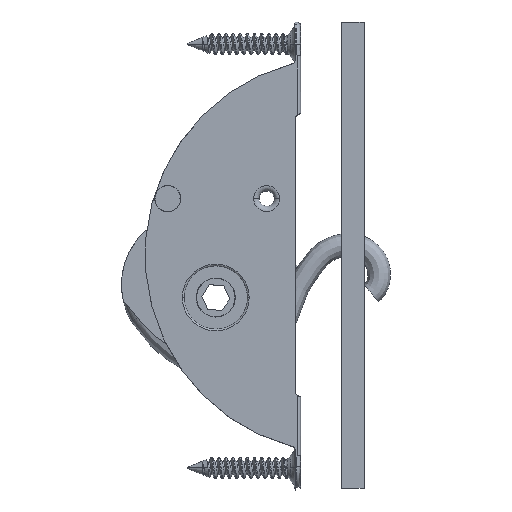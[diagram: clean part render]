
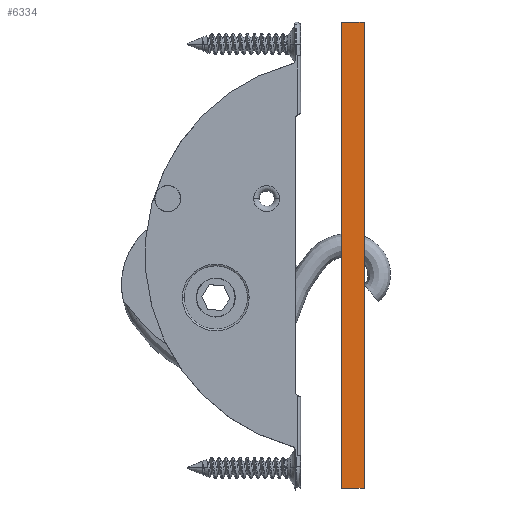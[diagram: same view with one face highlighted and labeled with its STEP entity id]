
A CAD part, top view. The second image highlights one B-rep face of the part: STEP entity #6334.
In plain terms, the highlighted planar face has unit normal (0, 0, 1).
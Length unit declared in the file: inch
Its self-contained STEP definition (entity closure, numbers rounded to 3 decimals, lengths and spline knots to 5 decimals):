
#126 = DIRECTION ( 'NONE',  ( 0., 0., -1. ) ) ;
#127 = CARTESIAN_POINT ( 'NONE',  ( 0.1, 2.0625, 0.195 ) ) ;
#154 = LINE ( 'NONE', #214, #213 ) ;
#155 = CARTESIAN_POINT ( 'NONE',  ( 0.1, 2.0625, 0.195 ) ) ;
#156 = CARTESIAN_POINT ( 'NONE',  ( 0.1, 2.0625, 0.195 ) ) ;
#157 = CARTESIAN_POINT ( 'NONE',  ( -0.1, -2.0625, 0.195 ) ) ;
#161 = AXIS2_PLACEMENT_3D ( 'NONE', #127, #126, #217 ) ;
#162 = FACE_OUTER_BOUND ( 'NONE', #6305, .T. ) ;
#171 = PLANE ( 'NONE',  #161 ) ;
#200 = DIRECTION ( 'NONE',  ( -1., 0., 0. ) ) ;
#201 = VECTOR ( 'NONE', #200, 39.37008 ) ;
#202 = LINE ( 'NONE', #208, #201 ) ;
#204 = DIRECTION ( 'NONE',  ( 0., -1., 0. ) ) ;
#205 = VECTOR ( 'NONE', #204, 39.37008 ) ;
#206 = LINE ( 'NONE', #155, #205 ) ;
#208 = CARTESIAN_POINT ( 'NONE',  ( 0.1, 2.0625, 0.195 ) ) ;
#212 = DIRECTION ( 'NONE',  ( -1., 0., 0. ) ) ;
#213 = VECTOR ( 'NONE', #212, 39.37008 ) ;
#214 = CARTESIAN_POINT ( 'NONE',  ( 0.1, -2.0625, 0.195 ) ) ;
#215 = CARTESIAN_POINT ( 'NONE',  ( 0.1, -2.0625, 0.195 ) ) ;
#216 = CARTESIAN_POINT ( 'NONE',  ( -0.1, 2.0625, 0.195 ) ) ;
#217 = DIRECTION ( 'NONE',  ( 0., 1., 0. ) ) ;
#290 = DIRECTION ( 'NONE',  ( 0., -1., 0. ) ) ;
#291 = VECTOR ( 'NONE', #290, 39.37008 ) ;
#293 = CARTESIAN_POINT ( 'NONE',  ( -0.1, 2.0625, 0.195 ) ) ;
#294 = LINE ( 'NONE', #293, #291 ) ;
#6304 = ORIENTED_EDGE ( 'NONE', *, *, #6398, .T. ) ;
#6305 = EDGE_LOOP ( 'NONE', ( #6304, #6336, #6350, #6384 ) ) ;
#6334 = ADVANCED_FACE ( 'NONE', ( #162 ), #171, .F. ) ;
#6335 = VERTEX_POINT ( 'NONE', #157 ) ;
#6336 = ORIENTED_EDGE ( 'NONE', *, *, #6337, .F. ) ;
#6337 = EDGE_CURVE ( 'NONE', #6338, #6335, #154, .T. ) ;
#6338 = VERTEX_POINT ( 'NONE', #215 ) ;
#6340 = VERTEX_POINT ( 'NONE', #156 ) ;
#6341 = EDGE_CURVE ( 'NONE', #6340, #6338, #206, .T. ) ;
#6343 = EDGE_CURVE ( 'NONE', #6340, #6348, #202, .T. ) ;
#6348 = VERTEX_POINT ( 'NONE', #216 ) ;
#6350 = ORIENTED_EDGE ( 'NONE', *, *, #6341, .F. ) ;
#6384 = ORIENTED_EDGE ( 'NONE', *, *, #6343, .T. ) ;
#6398 = EDGE_CURVE ( 'NONE', #6348, #6335, #294, .T. ) ;
